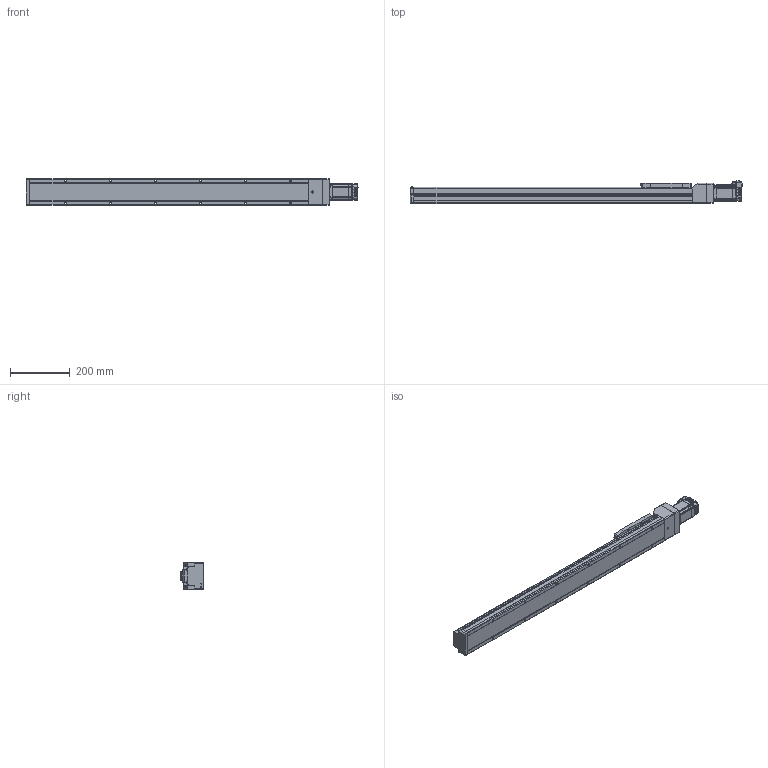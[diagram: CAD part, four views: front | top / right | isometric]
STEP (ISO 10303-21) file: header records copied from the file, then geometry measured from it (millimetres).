
FILE_DESCRIPTION (( 'STEP AP214' ), '1' );
FILE_NAME ('LEFS3(+)-40NM1仩-750-23L.STEP', '2023-06-02T05:17:29', ( '' ), ( '' ), 'SwSTEP 2.0', 'SolidWorks 2019', '' );
FILE_SCHEMA (( 'AUTOMOTIVE_DESIGN' ));
Length unit declared in the file: millimetre
Products named in the file (5): LEFS3(+)-40NM1_Motor Flange; LEFS3(+)-40NM1?_BODY_750; CM3(+)-23L50A_4-M4; LEFS3(+)-40NM1仩-750-23L; LEFS3(+)-40NM1_TABLE
Assembly tree (4 placements, depth 2):
  LEFS3(+)-40NM1仩-750-23L
    LEFS3(+)-40NM1?_BODY_750
    LEFS3(+)-40NM1_TABLE
    LEFS3(+)-40NM1_Motor Flange
    CM3(+)-23L50A_4-M4
Bounding box: 1107.6 x 76.75 x 90 mm (x, y, z)
Volume: 4646946.5 mm3; surface area: 408638.7 mm2
Topology: 5 solids, 14 shells, 1658 faces, 4305 edges, 2664 vertices
Faces by surface type: plane 764, cylinder 523, bspline 133, cone 117, torus 74, sphere 47
Entity records: 56221 total; most frequent: CARTESIAN_POINT 14033, ORIENTED_EDGE 8460, DIRECTION 7894, EDGE_CURVE 4230, AXIS2_PLACEMENT_3D 2688, VERTEX_POINT 2664, LINE 2518, VECTOR 2518
